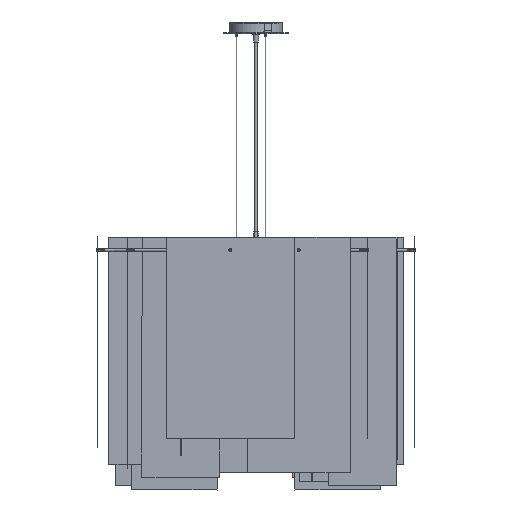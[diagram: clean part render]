
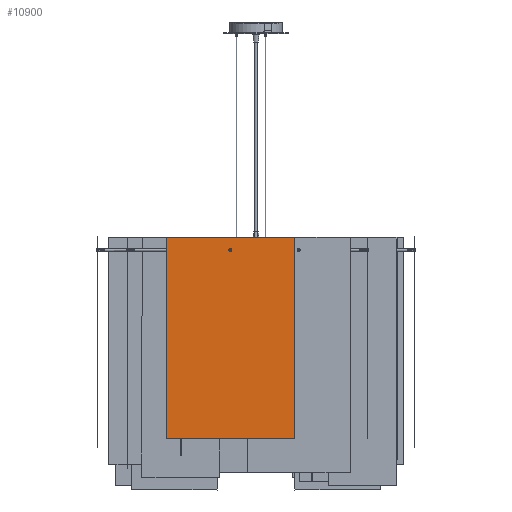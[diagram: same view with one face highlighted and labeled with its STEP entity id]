
A CAD part, left-side view. The second image highlights one B-rep face of the part: STEP entity #10900.
In plain terms, the highlighted planar face has unit normal (-1, 0, 0) as drawn and (0, 0, -1) by its records, which use the part's own axes.
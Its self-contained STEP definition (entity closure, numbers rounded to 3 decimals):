
#10750=CARTESIAN_POINT('',(2.5,440.0,0.0));
#10751=VERTEX_POINT('',#10750);
#10752=CARTESIAN_POINT('',(0.,440.0,0.0));
#10753=DIRECTION('',(0.0,0.0,1.0));
#10754=DIRECTION('',(-1.0,0.0,0.0));
#10755=AXIS2_PLACEMENT_3D('',#10752,#10753,#10754);
#10756=CIRCLE('',#10755,2.5);
#10757=EDGE_CURVE('',#10751,#10751,#10756,.T.);
#10777=CARTESIAN_POINT('',(-150.,470.0,0.0));
#10778=VERTEX_POINT('',#10777);
#10785=CARTESIAN_POINT('',(-150.0,0.0,0.0));
#10786=VERTEX_POINT('',#10785);
#10787=CARTESIAN_POINT('',(-150.,470.0,0.0));
#10788=DIRECTION('',(0.0,-1.0,0.0));
#10789=VECTOR('',#10788,470.0);
#10790=LINE('',#10787,#10789);
#10791=EDGE_CURVE('',#10778,#10786,#10790,.T.);
#10815=CARTESIAN_POINT('',(150.,470.,0.0));
#10816=VERTEX_POINT('',#10815);
#10823=CARTESIAN_POINT('',(150.,470.,0.0));
#10824=DIRECTION('',(-1.0,0.0,0.0));
#10825=VECTOR('',#10824,300.);
#10826=LINE('',#10823,#10825);
#10827=EDGE_CURVE('',#10816,#10778,#10826,.T.);
#10846=CARTESIAN_POINT('',(150.0,0.,0.0));
#10847=VERTEX_POINT('',#10846);
#10854=CARTESIAN_POINT('',(150.0,0.,0.0));
#10855=DIRECTION('',(0.0,1.0,0.0));
#10856=VECTOR('',#10855,470.0);
#10857=LINE('',#10854,#10856);
#10858=EDGE_CURVE('',#10847,#10816,#10857,.T.);
#10876=CARTESIAN_POINT('',(-150.0,0.0,0.0));
#10877=DIRECTION('',(1.0,0.0,0.0));
#10878=VECTOR('',#10877,300.0);
#10879=LINE('',#10876,#10878);
#10880=EDGE_CURVE('',#10786,#10847,#10879,.T.);
#10886=CARTESIAN_POINT('',(0.,235.0,0.0));
#10887=DIRECTION('',(0.0,0.0,1.0));
#10888=DIRECTION('',(1.0,0.0,0.0));
#10889=AXIS2_PLACEMENT_3D('',#10886,#10887,#10888);
#10890=PLANE('',#10889);
#10891=ORIENTED_EDGE('',*,*,#10880,.F.);
#10892=ORIENTED_EDGE('',*,*,#10791,.F.);
#10893=ORIENTED_EDGE('',*,*,#10827,.F.);
#10894=ORIENTED_EDGE('',*,*,#10858,.F.);
#10895=EDGE_LOOP('',(#10891,#10892,#10893,#10894));
#10896=FACE_OUTER_BOUND('',#10895,.T.);
#10897=ORIENTED_EDGE('',*,*,#10757,.T.);
#10898=EDGE_LOOP('',(#10897));
#10899=FACE_BOUND('',#10898,.T.);
#10900=ADVANCED_FACE('',(#10896,#10899),#10890,.F.);
